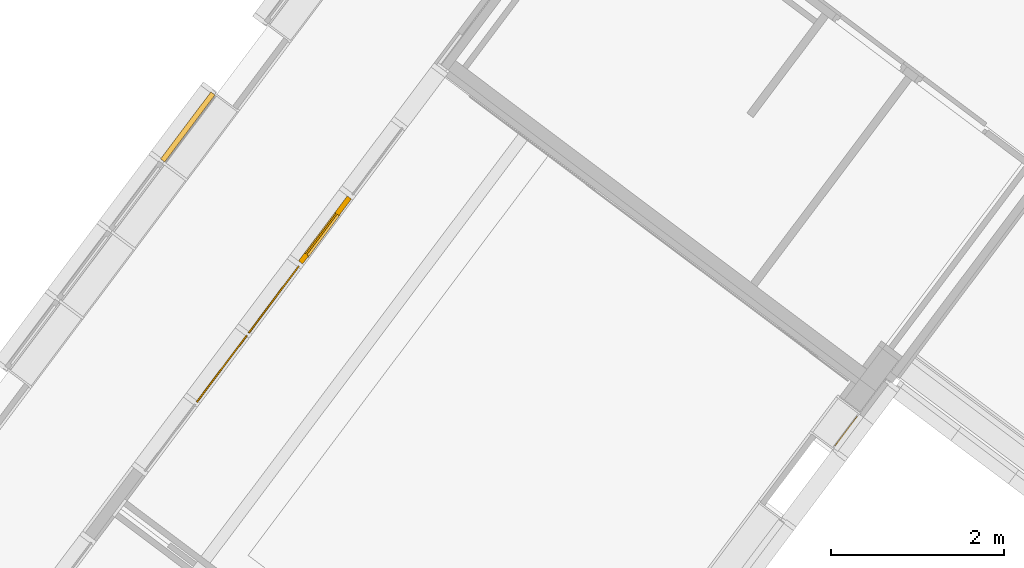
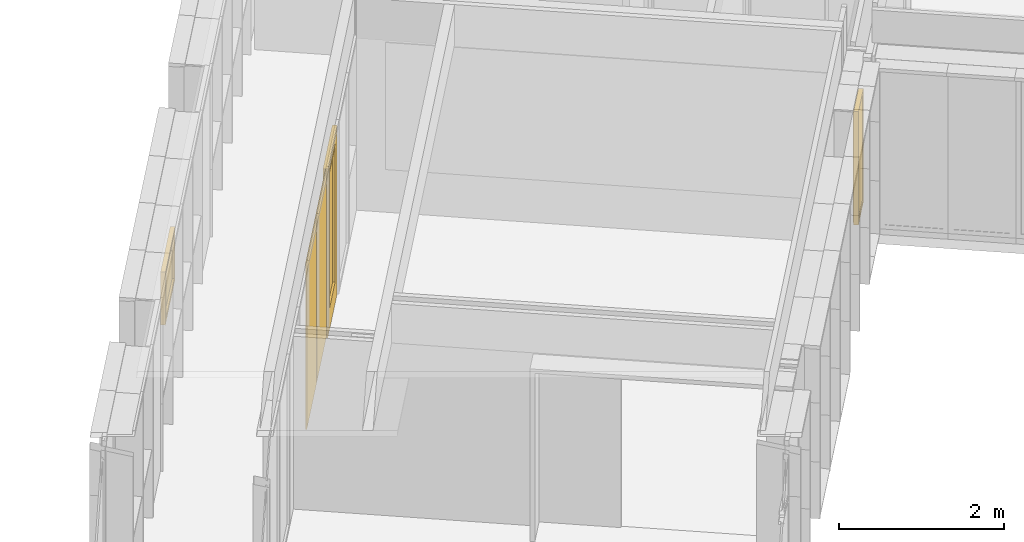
# One storey, part 202 of 243: 4 windows, 1 door, 3 elements without a shape of their own.
"""IFC2X3 building model written with IfcOpenShell, lengths in metres."""

from ifc_helpers import new_model, entity, si_unit, converted_unit, derived_unit, direction, frame, origin, origin_2d_with_axis, place, context, subcontext, project, spatial, rectangle, extrude, faceted_brep, source, transform, mapped, material, material_list, type_object, type_shapes, element, aggregate, save


model = new_model("IFC2X3")

# Units and contexts
model_context = context("Model", 3, precision=1e-05, world=origin(), true_north=direction((6.123031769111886e-17, 1.0)))
body_context = subcontext(model_context, "Body", "Model", "MODEL_VIEW")
ifc_project = project(units=[si_unit("LENGTHUNIT", "METRE"), si_unit("AREAUNIT", "SQUARE_METRE"), si_unit("VOLUMEUNIT", "CUBIC_METRE"), converted_unit("PLANEANGLEUNIT", "DEGREE", entity("IfcRatioMeasure", 0.017453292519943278), si_unit("PLANEANGLEUNIT", "RADIAN"), dimensions=[0, 0, 0, 0, 0, 0, 0]), si_unit("MASSUNIT", "GRAM", prefix="KILO"), derived_unit("MASSDENSITYUNIT", [(si_unit("MASSUNIT", "GRAM", prefix="KILO"), 1), (si_unit("LENGTHUNIT", "METRE"), -3)]), derived_unit("IONCONCENTRATIONUNIT", [(si_unit("MASSUNIT", "GRAM", prefix="KILO"), 1), (si_unit("LENGTHUNIT", "METRE"), -3)]), derived_unit("MOMENTOFINERTIAUNIT", [(si_unit("LENGTHUNIT", "METRE"), 4)]), si_unit("TIMEUNIT", "SECOND"), si_unit("FREQUENCYUNIT", "HERTZ"), si_unit("THERMODYNAMICTEMPERATUREUNIT", "DEGREE_CELSIUS"), derived_unit("THERMALTRANSMITTANCEUNIT", [(si_unit("MASSUNIT", "GRAM", prefix="KILO"), 1), (si_unit("THERMODYNAMICTEMPERATUREUNIT", "KELVIN"), -1), (si_unit("TIMEUNIT", "SECOND"), -3)]), derived_unit("THERMALCONDUCTANCEUNIT", [(si_unit("MASSUNIT", "GRAM", prefix="KILO"), 1), (si_unit("THERMODYNAMICTEMPERATUREUNIT", "KELVIN"), -1), (si_unit("TIMEUNIT", "SECOND"), -3), (si_unit("LENGTHUNIT", "METRE"), 1)]), derived_unit("VOLUMETRICFLOWRATEUNIT", [(si_unit("LENGTHUNIT", "METRE"), 3), (si_unit("TIMEUNIT", "SECOND"), -1)]), derived_unit("MASSFLOWRATEUNIT", [(si_unit("MASSUNIT", "GRAM", prefix="KILO"), 1), (si_unit("TIMEUNIT", "SECOND"), -1)]), derived_unit("ROTATIONALFREQUENCYUNIT", [(si_unit("TIMEUNIT", "SECOND"), -1)]), si_unit("ELECTRICCURRENTUNIT", "AMPERE"), si_unit("ELECTRICVOLTAGEUNIT", "VOLT"), si_unit("POWERUNIT", "WATT"), si_unit("FORCEUNIT", "NEWTON", prefix="KILO"), si_unit("ILLUMINANCEUNIT", "LUX"), si_unit("LUMINOUSFLUXUNIT", "LUMEN"), si_unit("LUMINOUSINTENSITYUNIT", "CANDELA"), derived_unit("USERDEFINED", [(si_unit("MASSUNIT", "GRAM", prefix="KILO"), -1), (si_unit("LENGTHUNIT", "METRE"), -2), (si_unit("TIMEUNIT", "SECOND"), 3), (si_unit("LUMINOUSFLUXUNIT", "LUMEN"), 1)]), derived_unit("USERDEFINED", [(si_unit("MASSUNIT", "GRAM", prefix="KILO"), 1), (si_unit("TIMEUNIT", "SECOND"), -3), (si_unit("LENGTHUNIT", "METRE"), 3), (si_unit("ELECTRICCURRENTUNIT", "AMPERE"), -2)]), derived_unit("SOUNDPOWERUNIT", [(si_unit("MASSUNIT", "GRAM", prefix="KILO"), 1), (si_unit("TIMEUNIT", "SECOND"), -3), (si_unit("LENGTHUNIT", "METRE"), 2)]), derived_unit("SOUNDPRESSUREUNIT", [(si_unit("MASSUNIT", "GRAM", prefix="KILO"), 1), (si_unit("LENGTHUNIT", "METRE"), -1), (si_unit("TIMEUNIT", "SECOND"), -2)]), derived_unit("LINEARVELOCITYUNIT", [(si_unit("LENGTHUNIT", "METRE"), 1), (si_unit("TIMEUNIT", "SECOND"), -1)]), si_unit("PRESSUREUNIT", "PASCAL"), derived_unit("USERDEFINED", [(si_unit("MASSUNIT", "GRAM", prefix="KILO"), 1), (si_unit("LENGTHUNIT", "METRE"), -2), (si_unit("TIMEUNIT", "SECOND"), -2)]), derived_unit("LINEARFORCEUNIT", [(si_unit("MASSUNIT", "GRAM", prefix="KILO"), 1), (si_unit("TIMEUNIT", "SECOND"), -2)]), derived_unit("PLANARFORCEUNIT", [(si_unit("MASSUNIT", "GRAM", prefix="KILO"), 1), (si_unit("LENGTHUNIT", "METRE"), -1), (si_unit("TIMEUNIT", "SECOND"), -2)]), derived_unit("SPECIFICHEATCAPACITYUNIT", [(si_unit("THERMODYNAMICTEMPERATUREUNIT", "KELVIN"), -1), (si_unit("LENGTHUNIT", "METRE"), 2), (si_unit("TIMEUNIT", "SECOND"), -2)]), derived_unit("HEATINGVALUEUNIT", [(si_unit("LENGTHUNIT", "METRE"), 2), (si_unit("TIMEUNIT", "SECOND"), -2)]), derived_unit("VAPORPERMEABILITYUNIT", [(si_unit("LENGTHUNIT", "METRE"), -1), (si_unit("TIMEUNIT", "SECOND"), 1)]), derived_unit("DYNAMICVISCOSITYUNIT", [(si_unit("MASSUNIT", "GRAM", prefix="KILO"), 1), (si_unit("TIMEUNIT", "SECOND"), -1), (si_unit("LENGTHUNIT", "METRE"), -1)]), derived_unit("THERMALEXPANSIONCOEFFICIENTUNIT", [(si_unit("THERMODYNAMICTEMPERATUREUNIT", "KELVIN"), -1)]), derived_unit("MODULUSOFELASTICITYUNIT", [(si_unit("MASSUNIT", "GRAM", prefix="KILO"), 1), (si_unit("LENGTHUNIT", "METRE"), -1), (si_unit("TIMEUNIT", "SECOND"), -2)]), derived_unit("ISOTHERMALMOISTURECAPACITYUNIT", [(si_unit("LENGTHUNIT", "METRE"), 3), (si_unit("MASSUNIT", "GRAM", prefix="KILO"), -1)]), derived_unit("MOISTUREDIFFUSIVITYUNIT", [(si_unit("TIMEUNIT", "SECOND"), -1), (si_unit("LENGTHUNIT", "METRE"), 2)])], contexts=[model_context])

# Site, building, storey
site_placement = place(None, frame((0.0, 0.0, 235.0), z_axis=(0.0, 0.0, 1.0), x_axis=(-0.7996477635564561, 0.6004693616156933, 0.0)))
site = spatial("IfcSite", under=ifc_project, at=site_placement, Name="Default", CompositionType="ELEMENT")
building_placement = place(site_placement, origin())
building = spatial("IfcBuilding", under=site, at=building_placement, CompositionType="ELEMENT")
storey_placement = place(building_placement, origin())
storey = spatial("IfcBuildingStorey", under=building, at=storey_placement, Name="P0- Escola", CompositionType="ELEMENT", Elevation=0.0)

# Curtain wall, windows, door
curtain_wall_type_1 = type_object("IfcCurtainWallType", Name="Muro cortina:MC- INT- a1", PredefinedType="NOTDEFINED")
curtain_wall_1_placement = place(storey_placement, origin())
curtain_wall_1 = element("IfcCurtainWall", 1, at=curtain_wall_1_placement, inside=storey, type_object=curtain_wall_type_1, Name="Muro cortina:MC- INT- a1", ObjectType="Muro cortina:MC- INT- a1")
ifc_material_1 = material(Name="_Vidre")
window_style_1 = type_object("IfcWindowStyle", Name="MC- Fusta- vidre fix:MC- Fusta- vidre fix", ConstructionType="NOTDEFINED", OperationType="NOTDEFINED", ParameterTakesPrecedence=False, Sizeable=False, material=ifc_material_1)
shared_shape_1 = source(origin(), body_context, "Body", "SweptSolid", [
    extrude(rectangle(XDim=0.9699999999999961, YDim=0.015999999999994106, at=origin_2d_with_axis()), frame((0.0, 0.0, 0.0), z_axis=(0.0, 0.0, 1.0), x_axis=(-1.0, 0.0, 0.0)), (0.0, 0.0, 1.0), 2.475),
])
type_shapes(window_style_1, [shared_shape_1])
window_1_placement = place(curtain_wall_1_placement, frame((72.720147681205, -31.915189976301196, 0.045000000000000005), z_axis=(0.0, 0.0, 1.0), x_axis=(0.0, -1.0, 0.0)))
window_1 = element("IfcWindow", 2, at=window_1_placement, type_object=window_style_1, material=ifc_material_1, Name="MC- Fusta- vidre fix:MC- Fusta- vidre fix", ObjectType="MC- Fusta- vidre fix:MC- Fusta- vidre fix", OverallHeight=2.475, OverallWidth=0.9699999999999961, context=body_context, shape_type="MappedRepresentation", body=[
    mapped(shared_shape_1, transform((0.0, 0.0, 0.0), scale=1.0)),
])
window_2_placement = place(curtain_wall_1_placement, frame((72.720147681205, -32.91518997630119, 0.045000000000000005), z_axis=(0.0, 0.0, 1.0), x_axis=(0.0, -1.0, 0.0)))
window_2 = element("IfcWindow", 3, at=window_2_placement, type_object=window_style_1, material=ifc_material_1, Name="MC- Fusta- vidre fix:MC- Fusta- vidre fix", ObjectType="MC- Fusta- vidre fix:MC- Fusta- vidre fix", OverallHeight=2.475, OverallWidth=0.9699999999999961, context=body_context, shape_type="MappedRepresentation", body=[
    mapped(shared_shape_1, transform((0.0, 0.0, 0.0), scale=1.0)),
])
ifc_material_2 = material(Name="_Fusta massisa- T1")
ifc_material_list_1 = material_list([ifc_material_2, ifc_material_1])
door_style = type_object("IfcDoorStyle", Name="MC- Fusta- conjunt porta:MC- Fusta- conjunt Porta aules", ConstructionType="NOTDEFINED", OperationType="NOTDEFINED", ParameterTakesPrecedence=False, Sizeable=False, material=ifc_material_list_1)
shared_shape_2 = source(origin(), body_context, "Body", "Brep", [
    faceted_brep([(0.24500000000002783, -0.024999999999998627, 2.3799999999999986), (0.24500000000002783, -0.024999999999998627, 0.3299999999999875), (0.24500000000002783, 0.0050000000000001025, 0.3299999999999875), (0.24500000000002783, 0.0050000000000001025, 2.3799999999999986), (-0.3700000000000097, -0.024999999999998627, 0.3299999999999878), (-0.3700000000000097, 0.0050000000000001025, 0.3299999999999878), (-0.37000000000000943, -0.024999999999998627, 2.3799999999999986), (-0.37000000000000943, 0.0050000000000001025, 2.3799999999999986), (0.23000000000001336, 0.0050000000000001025, 2.3650000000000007), (-0.35499999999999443, 0.0050000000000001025, 2.3650000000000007), (-0.35499999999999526, 0.0050000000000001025, 0.3449999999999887), (0.23000000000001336, 0.0050000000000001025, 0.34499999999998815), (0.23000000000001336, -0.024999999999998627, 2.3650000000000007), (0.23000000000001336, -0.024999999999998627, 0.34499999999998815), (-0.35499999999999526, -0.024999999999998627, 0.3449999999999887), (-0.35499999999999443, -0.024999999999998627, 2.3650000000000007)], [[[0, 1, 2, 3]], [[1, 4, 5, 2]], [[4, 6, 7, 5]], [[8, 9, 10, 11], [3, 2, 5, 7]], [[12, 13, 14, 15], [0, 6, 4, 1]], [[13, 12, 8, 11]], [[14, 13, 11, 10]], [[15, 14, 10, 9]], [[6, 0, 3, 7]], [[12, 15, 9, 8]]], outer=[[True], [True], [True], [False, True], [False, True], [True], [True], [True], [True], [True]]),
    faceted_brep([(0.43999999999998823, 0.03999999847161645, 0.0), (0.43999999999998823, 0.0099999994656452, 0.0), (0.4550000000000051, 0.0099999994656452, 0.0), (0.4550000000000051, -0.01999999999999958, 0.0), (-0.45499999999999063, -0.019999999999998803, 0.0), (-0.45499999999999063, 0.009999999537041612, 0.0), (-0.43999999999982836, 0.009999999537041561, 0.0), (-0.43999999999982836, 0.039999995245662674, 0.0), (0.45500000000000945, -0.01999999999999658, 2.4899999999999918), (-0.45499999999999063, -0.019999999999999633, 2.4899999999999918), (0.24500000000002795, -0.019999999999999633, 0.3300000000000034), (-0.37000000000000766, -0.019999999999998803, 0.3300000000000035), (-0.37000000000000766, -0.01999999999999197, 2.3799999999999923), (0.24500000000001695, -0.019999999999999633, 2.3799999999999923), (0.45500000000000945, 0.0099999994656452, 2.4899999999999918), (-0.45499999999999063, 0.0099999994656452, 2.4899999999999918), (0.43999999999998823, 0.03999999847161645, 2.4749999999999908), (0.43999999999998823, 0.0099999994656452, 2.4749999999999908), (-0.43999999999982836, 0.0099999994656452, 2.4749999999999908), (-0.43999999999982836, 0.039999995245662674, 2.4749999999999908), (-0.3549999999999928, 0.03999999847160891, 0.3450000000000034), (0.2300000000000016, 0.03999999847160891, 0.3450000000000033), (0.2300000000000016, 0.03999999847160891, 2.364999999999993), (-0.3549999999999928, 0.03999999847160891, 2.364999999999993), (-0.3549999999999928, 0.025000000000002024, 0.3450000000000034), (0.2300000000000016, 0.025000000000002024, 0.3450000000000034), (0.2300000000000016, 0.024999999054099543, 2.364999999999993), (-0.3549999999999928, 0.03999999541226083, 2.364999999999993), (-0.3549999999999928, 0.024999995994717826, 2.364999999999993), (0.2300000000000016, 0.025000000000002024, 2.364999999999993), (-0.37000000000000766, 0.025000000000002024, 0.3300000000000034), (0.24500000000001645, 0.025000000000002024, 0.3300000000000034), (0.24500000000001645, 0.025000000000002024, 2.3799999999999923), (-0.37000000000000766, 0.025000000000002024, 2.3799999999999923), (0.24500000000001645, 0.024999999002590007, 0.3300000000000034), (-0.37000000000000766, 0.02499999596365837, 2.3799999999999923), (0.24500000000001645, 0.024999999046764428, 2.3799999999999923)], [[[0, 1, 2, 3, 4, 5, 6, 7]], [[8, 9, 4, 3], [10, 11, 12, 13]], [[8, 3, 2, 14]], [[15, 5, 4, 9]], [[16, 17, 1, 0]], [[14, 2, 1, 17, 18, 6, 5, 15]], [[18, 19, 7, 6]], [[16, 0, 7, 19], [20, 21, 22, 23]], [[21, 20, 24, 25]], [[21, 25, 26, 22]], [[24, 20, 27, 28]], [[25, 24, 28, 29], [30, 31, 32, 33]], [[11, 10, 31, 30]], [[34, 10, 13, 32]], [[11, 30, 35, 12]], [[9, 8, 14, 15]], [[17, 16, 19, 18]], [[23, 22, 29, 28]], [[13, 12, 33, 36]]], outer=[[True], [True, False], [True], [True], [True], [True], [True], [True, False], [True], [True], [True], [False, True], [True], [True], [True], [True], [True], [True], [True]]),
    faceted_brep([(-0.37000000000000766, 0.024999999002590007, 0.3300000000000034), (0.2450000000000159, 0.024999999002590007, 0.3300000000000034), (0.2450000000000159, 0.0050000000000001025, 0.3300000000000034), (-0.37000000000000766, 0.0050000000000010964, 0.3300000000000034), (-0.37000000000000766, 0.024999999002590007, 2.380000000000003), (0.2450000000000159, 0.024999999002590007, 2.380000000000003), (0.2450000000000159, 0.0050000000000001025, 2.380000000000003), (-0.37000000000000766, 0.0050000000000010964, 2.380000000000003)], [[[0, 1, 2, 3]], [[4, 5, 1, 0]], [[5, 6, 2, 1]], [[6, 7, 3, 2]], [[7, 4, 0, 3]], [[4, 7, 6, 5]]]),
    faceted_brep([(0.46500000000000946, -0.01999999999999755, 0.0), (0.4550000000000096, -0.01999999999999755, 0.0), (0.4550000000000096, 0.010000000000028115, 0.0), (0.44000000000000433, 0.010000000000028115, 0.0), (0.44000000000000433, 0.0400000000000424, 0.0), (0.46500000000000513, 0.0400000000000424, 0.0), (0.46500000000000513, 0.03600000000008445, 0.0), (0.469999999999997, 0.03600000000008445, 0.0), (0.469999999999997, -0.015999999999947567, 0.0), (0.46500000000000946, -0.015999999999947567, 0.0), (0.46500000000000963, -0.01999999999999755, 2.5000000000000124), (-0.46500000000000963, -0.01999999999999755, 2.5000000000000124), (-0.46500000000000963, -0.01999999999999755, 0.0), (-0.45500000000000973, -0.01999999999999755, 0.0), (-0.45500000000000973, -0.01999999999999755, 2.4900000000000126), (0.4550000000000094, -0.01999999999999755, 2.490000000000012), (0.4550000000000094, 0.010000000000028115, 2.490000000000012), (-0.45500000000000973, 0.010000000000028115, 2.4900000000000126), (-0.45500000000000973, 0.010000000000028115, 0.0), (-0.4400000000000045, 0.010000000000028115, 0.0), (-0.4400000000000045, 0.010000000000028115, 2.4750000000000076), (0.4400000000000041, 0.010000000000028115, 2.4750000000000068), (0.4400000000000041, 0.0400000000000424, 2.4750000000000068), (-0.4400000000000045, 0.0400000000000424, 2.4750000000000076), (-0.4400000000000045, 0.0400000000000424, 0.0), (-0.4650000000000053, 0.0400000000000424, 0.0), (-0.4650000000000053, 0.0400000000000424, 2.5000000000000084), (0.46500000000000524, 0.0400000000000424, 2.5000000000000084), (0.46500000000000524, 0.03600000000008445, 2.5000000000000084), (-0.4650000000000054, 0.03600000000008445, 2.5000000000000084), (-0.4650000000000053, 0.03600000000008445, 0.0), (-0.4699999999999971, 0.03600000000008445, 0.0), (-0.4699999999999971, 0.03600000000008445, 2.5050000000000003), (0.46999999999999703, 0.03600000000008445, 2.5050000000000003), (0.46999999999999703, -0.015999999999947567, 2.5050000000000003), (-0.46999999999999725, -0.015999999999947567, 2.5050000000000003), (-0.4699999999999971, -0.015999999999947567, 0.0), (-0.46500000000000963, -0.015999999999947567, 0.0), (-0.46500000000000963, -0.015999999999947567, 2.5000000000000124), (0.4650000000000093, -0.015999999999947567, 2.500000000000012)], [[[0, 1, 2, 3, 4, 5, 6, 7, 8, 9]], [[1, 0, 10, 11, 12, 13, 14, 15]], [[2, 1, 15, 16]], [[3, 2, 16, 17, 18, 19, 20, 21]], [[4, 3, 21, 22]], [[5, 4, 22, 23, 24, 25, 26, 27]], [[6, 5, 27, 28]], [[7, 6, 28, 29, 30, 31, 32, 33]], [[8, 7, 33, 34]], [[9, 8, 34, 35, 36, 37, 38, 39]], [[0, 9, 39, 10]], [[11, 38, 37, 12]], [[12, 37, 36, 31, 30, 25, 24, 19, 18, 13]], [[17, 14, 13, 18]], [[23, 20, 19, 24]], [[29, 26, 25, 30]], [[35, 32, 31, 36]], [[16, 15, 14, 17]], [[22, 21, 20, 23]], [[28, 27, 26, 29]], [[34, 33, 32, 35]], [[10, 39, 38, 11]]]),
])
type_shapes(door_style, [shared_shape_2])
door_placement = place(curtain_wall_1_placement, frame((72.72014768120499, -33.91518997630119, 0.0), z_axis=(0.0, 0.0, 1.0), x_axis=(0.0, -1.0, 0.0)))
door = element("IfcDoor", 4, at=door_placement, type_object=door_style, material=ifc_material_list_1, Name="MC- Fusta- conjunt porta:MC- Fusta- conjunt Porta aules", ObjectType="MC- Fusta- conjunt porta:MC- Fusta- conjunt Porta aules", OverallHeight=2.5050000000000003, OverallWidth=0.9399999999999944, context=body_context, shape_type="MappedRepresentation", body=[
    mapped(shared_shape_2, transform((0.0, 0.0, 0.0), scale=1.0)),
])
aggregate(curtain_wall_1, [window_1, window_2, door])

# Curtain wall, window
curtain_wall_type_2 = type_object("IfcCurtainWallType", Name="Muro cortina:MC- EXT- MC2", PredefinedType="NOTDEFINED")
curtain_wall_2_placement = place(storey_placement, origin())
curtain_wall_2 = element("IfcCurtainWall", 5, at=curtain_wall_2_placement, inside=storey, type_object=curtain_wall_type_2, Name="Muro cortina:MC- EXT- MC2", ObjectType="Muro cortina:MC- EXT- MC2")
ifc_material_3 = material(Name="_Alumini- T1- Perfil")
ifc_material_list_2 = material_list([ifc_material_1, ifc_material_3])
window_style_2 = type_object("IfcWindowStyle", Name="MC- Alu- Conjunt finestra basculant- 68x68 cm:MC- Alu- Conjunt finestra basculant- 68x68 cm", ConstructionType="NOTDEFINED", OperationType="NOTDEFINED", ParameterTakesPrecedence=False, Sizeable=False, material=ifc_material_list_2)
shared_shape_3 = source(origin(), body_context, "Body", "Brep", [
    faceted_brep([(0.194410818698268, -0.03559830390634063, 0.051999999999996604), (-0.19441081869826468, -0.03559830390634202, 0.051999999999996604), (-0.1944108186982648, -0.011598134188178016, 0.051999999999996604), (0.19441081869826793, -0.011598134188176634, 0.051999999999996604), (0.194410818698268, -0.03559830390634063, 1.631552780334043), (0.19441081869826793, -0.011598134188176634, 1.631552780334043), (-0.19441081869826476, -0.011598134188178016, 1.631552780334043), (-0.19441081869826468, -0.03559830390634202, 1.631552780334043)], [[[0, 1, 2, 3]], [[4, 0, 3, 5]], [[5, 3, 2, 6]], [[6, 2, 1, 7]], [[7, 1, 0, 4]], [[4, 5, 6, 7]]]),
    faceted_brep([(-0.1787099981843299, -0.009998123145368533, 1.6158519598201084), (-0.17870999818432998, -0.009998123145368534, 0.06789804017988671), (-0.17870999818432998, -0.007998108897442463, 0.06789804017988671), (-0.17870999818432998, -0.007998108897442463, 1.6158519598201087), (-0.2076080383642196, -0.007998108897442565, 1.6447499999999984), (0.2076080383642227, -0.00799810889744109, 1.6447499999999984), (0.2076080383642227, -0.00799810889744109, 0.03899999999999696), (-0.2076080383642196, -0.007998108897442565, 0.03899999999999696), (0.17870999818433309, -0.007998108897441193, 1.6158519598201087), (0.17870999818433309, -0.007998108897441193, 0.06789804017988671), (0.17870999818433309, -0.009998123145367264, 0.06789804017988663), (0.17870999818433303, -0.009998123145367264, 1.6158519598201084), (0.1944108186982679, -0.009998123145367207, 1.6315527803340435), (-0.1944108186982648, -0.00999812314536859, 1.6315527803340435), (-0.1944108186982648, -0.00999812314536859, 0.05219721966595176), (0.1944108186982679, -0.009998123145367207, 0.05219721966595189), (-0.1944108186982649, -0.04079986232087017, 1.6315527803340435), (-0.19441081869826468, -0.04079986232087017, 0.05219721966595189), (0.19441081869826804, -0.04079986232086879, 0.05219721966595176), (0.1944108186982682, -0.04079986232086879, 1.6315527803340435), (0.1787099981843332, -0.040799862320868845, 1.6158519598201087), (-0.17870999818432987, -0.040799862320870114, 1.6158519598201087), (-0.17870999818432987, -0.040799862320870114, 0.06789804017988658), (0.1787099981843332, -0.040799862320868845, 0.06789804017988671), (-0.17870999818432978, -0.0680000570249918, 1.6158519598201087), (-0.17870999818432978, -0.0680000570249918, 0.06789804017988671), (0.17870999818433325, -0.06800005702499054, 0.06789804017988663), (0.17870999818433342, -0.06800005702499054, 1.6158519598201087), (0.225112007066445, -0.06800005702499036, 1.6622539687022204), (-0.22511200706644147, -0.06800005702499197, 1.6622539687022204), (-0.22511200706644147, -0.06800005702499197, 0.021496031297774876), (0.225112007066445, -0.06800005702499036, 0.021496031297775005), (-0.22511200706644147, -0.06450003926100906, 1.6622539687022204), (-0.22511200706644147, -0.06450003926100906, 0.021496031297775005), (0.225112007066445, -0.06450003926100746, 0.021496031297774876), (0.225112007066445, -0.06450003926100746, 1.6622539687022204), (0.2076080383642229, -0.06450003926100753, 1.6447499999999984), (-0.2076080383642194, -0.064500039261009, 1.6447499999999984), (-0.2076080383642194, -0.064500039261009, 0.03899999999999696), (0.2076080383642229, -0.06450003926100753, 0.03899999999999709)], [[[0, 1, 2, 3]], [[4, 5, 6, 7], [8, 3, 2, 9]], [[1, 10, 9, 2]], [[0, 11, 10, 1], [12, 13, 14, 15]], [[16, 17, 14, 13]], [[17, 18, 15, 14]], [[16, 19, 18, 17], [20, 21, 22, 23]], [[24, 25, 22, 21]], [[25, 26, 23, 22]], [[24, 27, 26, 25], [28, 29, 30, 31]], [[32, 33, 30, 29]], [[33, 34, 31, 30]], [[32, 35, 34, 33], [36, 37, 38, 39]], [[4, 7, 38, 37]], [[7, 6, 39, 38]], [[10, 11, 8, 9]], [[18, 19, 12, 15]], [[26, 27, 20, 23]], [[34, 35, 28, 31]], [[6, 5, 36, 39]], [[11, 0, 3, 8]], [[19, 16, 13, 12]], [[27, 24, 21, 20]], [[35, 32, 29, 28]], [[5, 4, 37, 36]]], outer=[[True], [True, False], [True], [False, True], [True], [True], [True, False], [True], [True], [False, True], [True], [True], [True, False], [True], [True], [True], [True], [True], [True], [True], [True], [True], [True], [True], [True]]),
    faceted_brep([(0.18369229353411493, 0.0, 1.62094318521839), (0.18369229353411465, 0.0, 0.06280681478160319), (0.18369229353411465, -0.0040000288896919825, 0.06280681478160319), (0.18369229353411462, -0.0040000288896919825, 1.6209431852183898), (-0.1836922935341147, -0.0040000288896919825, 1.6209431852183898), (-0.18369229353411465, -0.0040000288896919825, 0.06280681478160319), (0.21909891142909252, -0.0040000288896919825, 1.6563498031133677), (-0.21909891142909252, -0.0040000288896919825, 1.6563498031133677), (-0.21909891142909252, -0.0040000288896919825, 0.027400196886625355), (0.21909891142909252, -0.0040000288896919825, 0.027400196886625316), (-0.18369229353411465, 0.0, 0.06280681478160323), (-0.18369229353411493, 0.0, 1.62094318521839), (-0.24649910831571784, 0.0, 1.683749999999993), (0.24649910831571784, 0.0, 1.683749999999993), (0.24649910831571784, 0.0, 0.0), (-0.24649910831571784, 0.0, 0.0), (0.24649910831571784, -0.05999999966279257, 1.683749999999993), (0.24649910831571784, -0.05999999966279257, 0.0), (-0.24649910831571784, -0.05999999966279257, 0.0), (-0.24649910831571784, -0.05999999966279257, 1.683749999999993), (-0.2190989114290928, -0.05999999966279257, 1.6563498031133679), (0.2190989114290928, -0.05999999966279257, 1.6563498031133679), (0.2190989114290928, -0.05999999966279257, 0.02740019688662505), (-0.2190989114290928, -0.05999999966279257, 0.027400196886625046)], [[[0, 1, 2, 3]], [[4, 3, 2, 5], [6, 7, 8, 9]], [[1, 10, 5, 2]], [[0, 11, 10, 1], [12, 13, 14, 15]], [[16, 17, 14, 13]], [[17, 18, 15, 14]], [[16, 19, 18, 17], [20, 21, 22, 23]], [[6, 9, 22, 21]], [[9, 8, 23, 22]], [[10, 11, 4, 5]], [[18, 19, 12, 15]], [[8, 7, 20, 23]], [[11, 0, 3, 4]], [[19, 16, 13, 12]], [[7, 6, 21, 20]]], outer=[[True], [False, True], [True], [False, True], [True], [True], [True, False], [True], [True], [True], [True], [True], [True], [True], [True]]),
])
type_shapes(window_style_2, [shared_shape_3])
window_3_placement = place(curtain_wall_2_placement, frame((66.44514768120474, -35.676690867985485, 0.8200000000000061), z_axis=(0.0, 0.0, 1.0), x_axis=(0.0, 1.0, 0.0)))
window_3 = element("IfcWindow", 6, at=window_3_placement, type_object=window_style_2, material=ifc_material_list_2, Name="MC- Alu- Conjunt finestra basculant- 68x68 cm:MC- Alu- Conjunt finestra basculant- 68x68 cm", ObjectType="MC- Alu- Conjunt finestra basculant- 68x68 cm:MC- Alu- Conjunt finestra basculant- 68x68 cm", OverallHeight=1.683749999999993, OverallWidth=0.49299821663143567, context=body_context, shape_type="MappedRepresentation", body=[
    mapped(shared_shape_3, transform((0.0, 0.0, 0.0), scale=1.0)),
])
aggregate(curtain_wall_2, [window_3])

curtain_wall_type_3 = type_object("IfcCurtainWallType", Name="Muro cortina:MC- EXT- MC5", PredefinedType="NOTDEFINED")
curtain_wall_3_placement = place(storey_placement, origin())
curtain_wall_3 = element("IfcCurtainWall", 7, at=curtain_wall_3_placement, inside=storey, type_object=curtain_wall_type_3, Name="Muro cortina:MC- EXT- MC5", ObjectType="Muro cortina:MC- EXT- MC5")
window_style_3 = type_object("IfcWindowStyle", Name="MC- Alu- Conjunt vidre fix- 62x60 cm:MC- Alu- Conjunt vidre fix- 62x60 cm", ConstructionType="NOTDEFINED", OperationType="NOTDEFINED", ParameterTakesPrecedence=False, Sizeable=False, material=ifc_material_list_2)
shared_shape_4 = source(origin(), body_context, "Body", "Brep", [
    faceted_brep([(-0.43619328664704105, -0.007600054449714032, 0.048806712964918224), (0.43619328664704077, -0.007600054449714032, 0.048806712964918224), (0.43619328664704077, -0.03160022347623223, 0.048806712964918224), (-0.43619328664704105, -0.03160022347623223, 0.048806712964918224), (-0.43619328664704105, -0.007600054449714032, 0.7387000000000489), (0.43619328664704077, -0.007600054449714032, 0.7387000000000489), (0.43619328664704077, -0.03160022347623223, 0.7387000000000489), (-0.43619328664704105, -0.03160022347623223, 0.7387000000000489)], [[[0, 1, 2, 3]], [[4, 5, 1, 0]], [[5, 6, 2, 1]], [[6, 7, 3, 2]], [[7, 4, 0, 3]], [[4, 7, 6, 5]]]),
    faceted_brep([(-0.4849999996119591, -0.05999999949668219, 0.7877000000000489), (-0.4849999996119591, 0.0, 0.7877000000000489), (-0.4849999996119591, 0.0, 0.0), (-0.4849999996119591, -0.05999999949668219, 0.0), (-0.422193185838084, 0.0, 0.7248931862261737), (-0.4221931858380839, 0.0, 0.06280681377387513), (0.42219318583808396, 0.0, 0.06280681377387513), (0.42219318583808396, 0.0, 0.7248931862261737), (0.4849999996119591, 0.0, 0.7877000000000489), (0.4849999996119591, 0.0, 0.0), (0.4849999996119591, -0.05999999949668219, 0.0), (0.4849999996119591, -0.05999999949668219, 0.7877000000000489), (0.4221960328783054, -0.05999999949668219, 0.7248960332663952), (0.4221960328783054, -0.05999999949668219, 0.0628039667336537), (-0.4221960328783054, -0.05999999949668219, 0.0628039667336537), (-0.4221960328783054, -0.05999999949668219, 0.7248960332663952), (-0.4221960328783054, -0.03160022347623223, 0.7248960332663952), (-0.4221960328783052, -0.03160022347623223, 0.06280396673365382), (0.4221960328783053, -0.03160022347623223, 0.06280396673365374), (0.42219603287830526, -0.03160022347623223, 0.7248960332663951), (0.43619328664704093, -0.03160022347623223, 0.7388932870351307), (0.43619328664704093, -0.03160022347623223, 0.048806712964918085), (-0.43619328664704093, -0.03160022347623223, 0.04880671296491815), (-0.43619328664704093, -0.03160022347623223, 0.7388932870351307), (-0.43619328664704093, -0.007600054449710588, 0.7388932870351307), (-0.43619328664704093, -0.007600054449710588, 0.04880671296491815), (0.43619328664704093, -0.007600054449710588, 0.048806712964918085), (0.43619328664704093, -0.007600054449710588, 0.7388932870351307), (0.42219318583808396, -0.007600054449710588, 0.7248931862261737), (0.42219318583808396, -0.007600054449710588, 0.06280681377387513), (-0.42219318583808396, -0.007600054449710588, 0.06280681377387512), (-0.42219318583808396, -0.007600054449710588, 0.7248931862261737)], [[[0, 1, 2, 3]], [[4, 5, 6, 7], [8, 9, 2, 1]], [[3, 2, 9, 10]], [[0, 3, 10, 11], [12, 13, 14, 15]], [[16, 15, 14, 17]], [[17, 14, 13, 18]], [[16, 17, 18, 19], [20, 21, 22, 23]], [[24, 23, 22, 25]], [[25, 22, 21, 26]], [[24, 25, 26, 27], [28, 29, 30, 31]], [[4, 31, 30, 5]], [[5, 30, 29, 6]], [[10, 9, 8, 11]], [[18, 13, 12, 19]], [[26, 21, 20, 27]], [[6, 29, 28, 7]], [[11, 8, 1, 0]], [[19, 12, 15, 16]], [[27, 20, 23, 24]], [[7, 28, 31, 4]]], outer=[[True], [False, True], [True], [True, False], [True], [True], [False, True], [True], [True], [True, False], [True], [True], [True], [True], [True], [True], [True], [True], [True], [True]]),
])
type_shapes(window_style_3, [shared_shape_4])
window_4_placement = place(curtain_wall_3_placement, frame((74.74514768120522, -33.91519175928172, 0.03229999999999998), z_axis=(0.0, 0.0, 1.0), x_axis=(0.0, -1.0, 0.0)))
window_4 = element("IfcWindow", 8, at=window_4_placement, type_object=window_style_3, material=ifc_material_list_2, Name="MC- Alu- Conjunt vidre fix- 62x60 cm:MC- Alu- Conjunt vidre fix- 62x60 cm", ObjectType="MC- Alu- Conjunt vidre fix- 62x60 cm:MC- Alu- Conjunt vidre fix- 62x60 cm", OverallHeight=0.7877000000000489, OverallWidth=0.9699999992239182, context=body_context, shape_type="MappedRepresentation", body=[
    mapped(shared_shape_4, transform((0.0, 0.0, 0.0), scale=1.0)),
])
aggregate(curtain_wall_3, [window_4])

save(model, "model.ifc")
